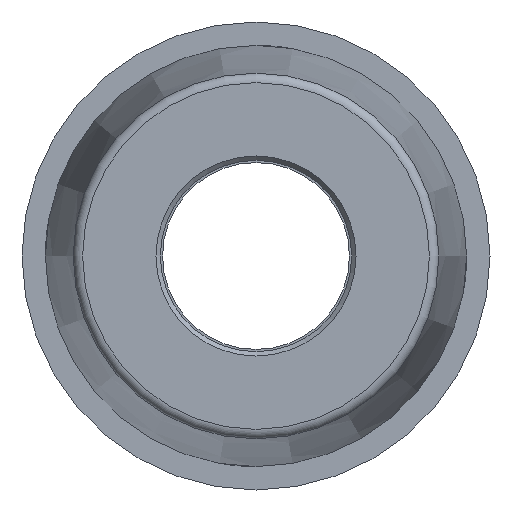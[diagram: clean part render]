
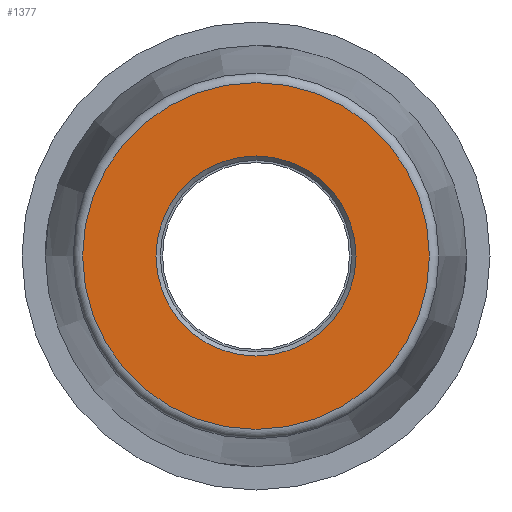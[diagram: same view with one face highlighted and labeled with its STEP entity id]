
A CAD part, left-side view. The second image highlights one B-rep face of the part: STEP entity #1377.
In plain terms, the highlighted planar face has unit normal (-1, 0, 0).
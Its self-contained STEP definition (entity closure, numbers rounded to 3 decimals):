
#37=FACE_BOUND('',#180,.T.);
#50=PLANE('',#1478);
#101=FACE_OUTER_BOUND('',#179,.T.);
#179=EDGE_LOOP('',(#953,#954));
#180=EDGE_LOOP('',(#955));
#491=CIRCLE('',#1475,11.54);
#494=CIRCLE('',#1479,20.004);
#495=CIRCLE('',#1480,20.004);
#591=VERTEX_POINT('',#2123);
#594=VERTEX_POINT('',#2131);
#595=VERTEX_POINT('',#2132);
#737=EDGE_CURVE('',#591,#591,#491,.T.);
#741=EDGE_CURVE('',#594,#595,#494,.T.);
#742=EDGE_CURVE('',#595,#594,#495,.T.);
#953=ORIENTED_EDGE('',*,*,#741,.F.);
#954=ORIENTED_EDGE('',*,*,#742,.F.);
#955=ORIENTED_EDGE('',*,*,#737,.F.);
#1377=ADVANCED_FACE('',(#101,#37),#50,.T.);
#1475=AXIS2_PLACEMENT_3D('',#2124,#1656,#1657);
#1478=AXIS2_PLACEMENT_3D('',#2130,#1663,#1664);
#1479=AXIS2_PLACEMENT_3D('',#2133,#1665,#1666);
#1480=AXIS2_PLACEMENT_3D('',#2134,#1667,#1668);
#1656=DIRECTION('center_axis',(-1.,0.,0.));
#1657=DIRECTION('ref_axis',(0.,-1.,0.));
#1663=DIRECTION('center_axis',(-1.,0.,0.));
#1664=DIRECTION('ref_axis',(0.,0.,1.));
#1665=DIRECTION('center_axis',(1.,0.,0.));
#1666=DIRECTION('ref_axis',(0.,-1.,0.));
#1667=DIRECTION('center_axis',(1.,0.,0.));
#1668=DIRECTION('ref_axis',(0.,-1.,0.));
#2123=CARTESIAN_POINT('',(-90.,11.54,0.));
#2124=CARTESIAN_POINT('Origin',(-90.,0.,0.));
#2130=CARTESIAN_POINT('Origin',(-90.,21.026,0.));
#2131=CARTESIAN_POINT('',(-90.,20.004,0.));
#2132=CARTESIAN_POINT('',(-90.,0.,20.004));
#2133=CARTESIAN_POINT('Origin',(-90.,0.,0.));
#2134=CARTESIAN_POINT('Origin',(-90.,0.,0.));
